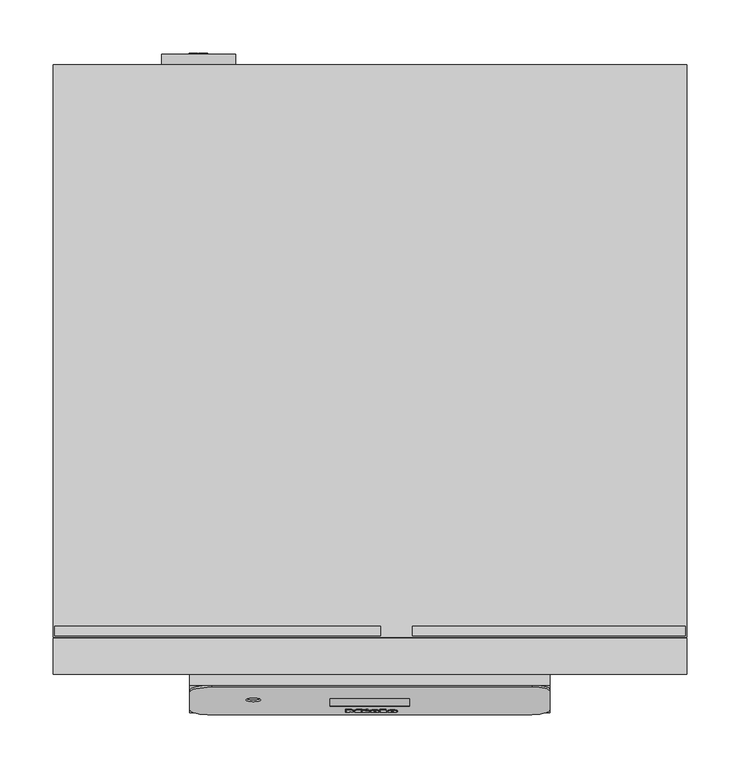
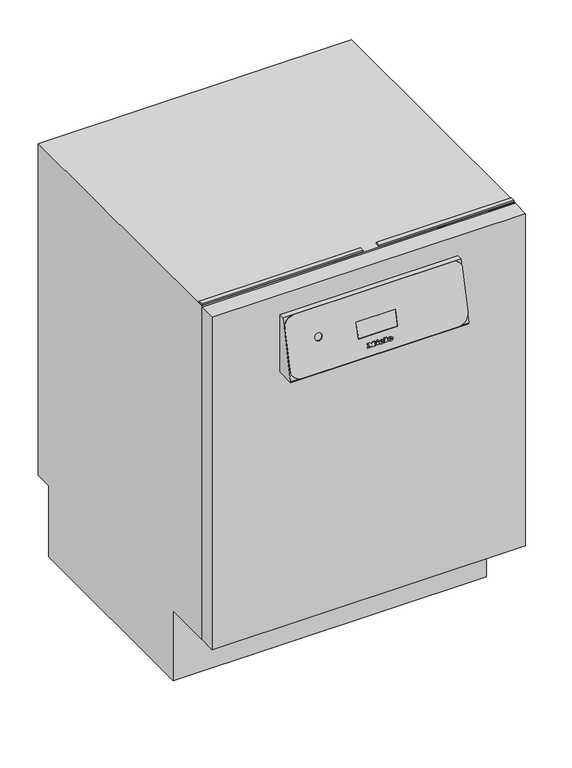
"""IFC4 building model written with IfcOpenShell, lengths in millimetres: proxy geometry, 12065130_DAC_PFD401U_LW : 61040120_DAC_12065130_PFD401U_LW."""

from ifc_helpers import new_model, si_unit, point, frame, frame_2d, origin, origin_with_axes, place, context, project, spatial, polyline, circle_curve, ellipse_curve, trimmed, segment, composite_curve, outline, extrude, source, transform, mapped, element, save
from ifc_brep_helpers import plane_surface, cylinder_surface, revolved_surface, extruded_surface, advanced_brep


def specialty_equipment_68a3030f(model_context):
    return source(origin(), model_context, "Body", "SolidModel", [
        advanced_brep(
        [(20.656, -35.3033059, 679.7712566), (20.656, -35.1215455, 680.5585476), (26.008, -35.1215455, 680.5585476), (16.696, -35.1215455, 680.5585476), (18.896, -35.7298131, 677.9238509), (25.872, -35.3033059, 679.7712566), (23.456, -35.3033059, 679.7712566), (21.552, -35.5048621, 678.898221), (20.656, -34.8911956, 681.5563025), (20.656, -34.6950383, 682.4059532), (22.024, -34.6950383, 682.4059532), (22.024, -34.8911956, 681.5563025), (20.656, -34.3289359, 679.5463055), (21.552, -34.530492, 678.6732699), (23.456, -34.3289359, 679.5463055), (25.872, -34.3289359, 679.5463055), (18.896, -34.7554431, 677.6988999), (16.696, -34.1471754, 680.3335965), (26.008, -34.1471754, 680.3335965), (20.656, -34.1471754, 680.3335965), (20.656, -33.9168255, 681.3313515), (22.024, -33.9168255, 681.3313515), (22.024, -33.7206682, 682.1810022), (20.656, -33.7206682, 682.1810022)],
        [
            (0, 1),
            (1, 2),
            (2, 3, ellipse_curve(frame((21.352, -35.1215455, 680.5585476), z_axis=(0.0, -0.9743700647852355, 0.22495105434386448), x_axis=(-1.0, 0.0, 0.0)), 4.656, 3.848)),
            (3, 4, circle_curve(frame((19.7920436, -35.0603588, 680.8235762), z_axis=(0.0, -0.9743700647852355, 0.22495105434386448), x_axis=(0.0, -0.22495105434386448, -0.9743700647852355)), 3.1079688)),
            (4, 5, circle_curve(frame((21.2587936, -34.5852622, 682.8814458), z_axis=(0.0, -0.9743700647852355, 0.22495105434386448), x_axis=(0.0, -0.22495105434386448, -0.9743700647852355)), 5.6098607)),
            (5, 6),
            (6, 7, circle_curve(frame((21.9430588, -35.1359424, 680.4961879), z_axis=(0.0, 0.9743700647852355, -0.22495105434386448), x_axis=(0.0, -0.22495105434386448, -0.9743700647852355)), 1.6859795)),
            (7, 0, circle_curve(frame((21.552, -35.3033059, 679.7712566), z_axis=(0.0, 0.9743700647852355, -0.22495105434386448), x_axis=(0.0, -0.22495105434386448, -0.9743700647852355)), 0.896)),
            (8, 9),
            (9, 10, circle_curve(frame((21.34, -34.6950383, 682.4059532), z_axis=(0.0, 0.9743700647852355, -0.22495105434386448), x_axis=(0.0, -0.22495105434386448, -0.9743700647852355)), 0.684)),
            (10, 11),
            (11, 8),
            (12, 13, circle_curve(frame((21.552, -34.3289359, 679.5463055), z_axis=(0.0, -0.9743700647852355, 0.22495105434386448), x_axis=(0.0, -0.22495105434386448, -0.9743700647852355)), 0.896)),
            (13, 14, circle_curve(frame((21.9430588, -34.1615723, 680.2712369), z_axis=(0.0, -0.9743700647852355, 0.22495105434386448), x_axis=(0.0, -0.22495105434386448, -0.9743700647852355)), 1.6859795)),
            (14, 15),
            (15, 16, circle_curve(frame((21.2587936, -33.6108921, 682.6564948), z_axis=(0.0, 0.9743700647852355, -0.22495105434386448), x_axis=(0.0, -0.22495105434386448, -0.9743700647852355)), 5.6098607)),
            (16, 17, circle_curve(frame((19.7920436, -34.0859887, 680.5986252), z_axis=(0.0, 0.9743700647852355, -0.22495105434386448), x_axis=(0.0, -0.22495105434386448, -0.9743700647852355)), 3.1079688)),
            (17, 18, ellipse_curve(frame((21.352, -34.1471754, 680.3335965), z_axis=(0.0, 0.9743700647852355, -0.22495105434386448), x_axis=(-1.0, 0.0, 0.0)), 4.656, 3.848)),
            (18, 19),
            (19, 12),
            (20, 21),
            (21, 22),
            (22, 23, circle_curve(frame((21.34, -33.7206682, 682.1810022), z_axis=(0.0, -0.9743700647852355, 0.22495105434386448), x_axis=(0.0, -0.22495105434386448, -0.9743700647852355)), 0.684)),
            (23, 20),
            (0, 12),
            (19, 1),
            (18, 2),
            (5, 15),
            (14, 6),
            (17, 3),
            (13, 7),
            (16, 4),
            (8, 20),
            (23, 9),
            (22, 10),
            (21, 11),
        ],
        [
            plane_surface(frame((20.656, -35.1215455, 680.5585476), z_axis=(0.0, -0.9743700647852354, 0.22495105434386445), x_axis=(0.0, 0.22495105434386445, 0.9743700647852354))),
            plane_surface(frame((20.656, -34.1471754, 680.3335965), z_axis=(0.0, 0.9743700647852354, -0.22495105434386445), x_axis=(0.0, -0.22495105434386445, -0.9743700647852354))),
            plane_surface(frame((20.656, -35.3033059, 679.7712566), z_axis=(1.0, 0.0, 0.0), x_axis=(0.0, 0.9743700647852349, -0.22495105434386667))),
            plane_surface(frame((20.656, -35.1215455, 680.5585476), z_axis=(0.0, -0.22495105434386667, -0.9743700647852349), x_axis=(0.0, 0.9743700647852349, -0.22495105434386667))),
            plane_surface(frame((25.872, -35.3033059, 679.7712566), z_axis=(0.0, 0.22495105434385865, 0.9743700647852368), x_axis=(0.0, 0.9743700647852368, -0.22495105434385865))),
            extruded_surface(trimmed(ellipse_curve(frame((21.352, -33.1728054, 680.1086455), z_axis=(0.0, -0.9743700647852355, 0.22495105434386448), x_axis=(-1.0, 0.0, 0.0)), 4.656, 3.848), [point((26.008, -33.1728054, 680.1086455))], [point((16.696, -33.1728054, 680.1086455))], True, "CARTESIAN"), (0.0, -0.9743700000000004, 0.22495100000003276), 0.9999999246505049),
            revolved_surface(polyline([(21.9430588, -34.54083511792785, 678.6284689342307), (21.9430588, -35.51520525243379, 678.8534200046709)]), (21.9430588, -34.1615723, 680.2712369), (0.0, 0.9743700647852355, -0.22495105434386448)),
            revolved_surface(polyline([(21.552, -34.53049199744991, 678.6732699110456), (21.552, -35.504862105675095, 678.8982209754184)]), (21.552, -34.3289359, 679.5463055), (0.0, 0.9743700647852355, -0.22495105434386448)),
            cylinder_surface(frame((19.7920436, -34.0859887, 680.5986252), z_axis=(0.0, -0.9743700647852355, 0.22495105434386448), x_axis=(0.0, -0.22495105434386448, -0.9743700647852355)), 3.1079688),
            cylinder_surface(frame((21.2587936, -33.6108921, 682.6564948), z_axis=(0.0, -0.9743700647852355, 0.22495105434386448), x_axis=(0.0, -0.22495105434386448, -0.9743700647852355)), 5.6098607),
            plane_surface(frame((20.656, -34.8911956, 681.5563025), z_axis=(1.0, 0.0, 0.0), x_axis=(0.0, 0.9743700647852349, -0.22495105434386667))),
            revolved_surface(polyline([(21.34, -33.8745347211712, 681.5145330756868), (21.34, -34.84890480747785, 681.7394841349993)]), (21.34, -33.7206682, 682.1810022), (0.0, 0.9743700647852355, -0.22495105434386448)),
            plane_surface(frame((22.024, -34.6950383, 682.4059532), z_axis=(-1.0, 0.0, 0.0), x_axis=(0.0, 0.9743700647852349, -0.22495105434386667))),
            plane_surface(frame((22.024, -34.8911956, 681.5563025), z_axis=(0.0, 0.22495105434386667, 0.9743700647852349), x_axis=(0.0, 0.9743700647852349, -0.22495105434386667))),
        ],
        [
            (0, [[1, 2, 3, 4, 5, 6, 7, 8], [9, 10, 11, 12]]),
            (1, [[13, 14, 15, 16, 17, 18, 19, 20], [21, 22, 23, 24]]),
            (2, [[-1, 25, -20, 26]]),
            (3, [[-2, -26, -19, 27]]),
            (4, [[-6, 28, -15, 29]]),
            (5, [[-3, -27, -18, 30]]),
            (6, [[-7, -29, -14, 31]]),
            (7, [[-8, -31, -13, -25]]),
            (8, [[-4, -30, -17, 32]]),
            (9, [[-5, -32, -16, -28]]),
            (10, [[-9, 33, -24, 34]]),
            (11, [[-10, -34, -23, 35]]),
            (12, [[-11, -35, -22, 36]]),
            (13, [[-12, -36, -21, -33]]),
        ],
    ),
        advanced_brep(
        [(3.96, -35.3033059, 679.7712566), (3.96, -35.1215455, 680.5585476), (9.312, -35.1215455, 680.5585476), (0.0, -35.1215455, 680.5585476), (2.2, -35.7298131, 677.9238509), (9.176, -35.3033059, 679.7712566), (6.76, -35.3033059, 679.7712566), (4.856, -35.5048621, 678.898221), (3.96, -34.8911956, 681.5563025), (3.96, -34.6950383, 682.4059532), (5.328, -34.6950383, 682.4059532), (5.328, -34.8911956, 681.5563025), (3.96, -34.3289359, 679.5463055), (4.856, -34.530492, 678.6732699), (6.76, -34.3289359, 679.5463055), (9.176, -34.3289359, 679.5463055), (2.2, -34.7554431, 677.6988999), (0.0, -34.1471754, 680.3335965), (9.312, -34.1471754, 680.3335965), (3.96, -34.1471754, 680.3335965), (3.96, -33.9168255, 681.3313515), (5.328, -33.9168255, 681.3313515), (5.328, -33.7206682, 682.1810022), (3.96, -33.7206682, 682.1810022)],
        [
            (0, 1),
            (1, 2),
            (2, 3, ellipse_curve(frame((4.656, -35.1215455, 680.5585476), z_axis=(0.0, -0.9743700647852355, 0.22495105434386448), x_axis=(-1.0, 0.0, 0.0)), 4.656, 3.848)),
            (3, 4, circle_curve(frame((3.0960436, -35.0603588, 680.8235762), z_axis=(0.0, -0.9743700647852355, 0.22495105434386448), x_axis=(0.0, -0.22495105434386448, -0.9743700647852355)), 3.1079688)),
            (4, 5, circle_curve(frame((4.5627936, -34.5852622, 682.8814458), z_axis=(0.0, -0.9743700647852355, 0.22495105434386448), x_axis=(0.0, -0.22495105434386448, -0.9743700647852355)), 5.6098607)),
            (5, 6),
            (6, 7, circle_curve(frame((5.2470588, -35.1359424, 680.4961879), z_axis=(0.0, 0.9743700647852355, -0.22495105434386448), x_axis=(0.0, -0.22495105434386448, -0.9743700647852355)), 1.6859795)),
            (7, 0, circle_curve(frame((4.856, -35.3033059, 679.7712566), z_axis=(0.0, 0.9743700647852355, -0.22495105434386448), x_axis=(0.0, -0.22495105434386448, -0.9743700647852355)), 0.896)),
            (8, 9),
            (9, 10, circle_curve(frame((4.644, -34.6950383, 682.4059532), z_axis=(0.0, 0.9743700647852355, -0.22495105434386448), x_axis=(0.0, -0.22495105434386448, -0.9743700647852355)), 0.684)),
            (10, 11),
            (11, 8),
            (12, 13, circle_curve(frame((4.856, -34.3289359, 679.5463055), z_axis=(0.0, -0.9743700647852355, 0.22495105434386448), x_axis=(0.0, -0.22495105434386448, -0.9743700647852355)), 0.896)),
            (13, 14, circle_curve(frame((5.2470588, -34.1615723, 680.2712369), z_axis=(0.0, -0.9743700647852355, 0.22495105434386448), x_axis=(0.0, -0.22495105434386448, -0.9743700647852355)), 1.6859795)),
            (14, 15),
            (15, 16, circle_curve(frame((4.5627936, -33.6108921, 682.6564948), z_axis=(0.0, 0.9743700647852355, -0.22495105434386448), x_axis=(0.0, -0.22495105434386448, -0.9743700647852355)), 5.6098607)),
            (16, 17, circle_curve(frame((3.0960436, -34.0859887, 680.5986252), z_axis=(0.0, 0.9743700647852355, -0.22495105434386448), x_axis=(0.0, -0.22495105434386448, -0.9743700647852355)), 3.1079688)),
            (17, 18, ellipse_curve(frame((4.656, -34.1471754, 680.3335965), z_axis=(0.0, 0.9743700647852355, -0.22495105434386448), x_axis=(-1.0, 0.0, 0.0)), 4.656, 3.848)),
            (18, 19),
            (19, 12),
            (20, 21),
            (21, 22),
            (22, 23, circle_curve(frame((4.644, -33.7206682, 682.1810022), z_axis=(0.0, -0.9743700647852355, 0.22495105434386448), x_axis=(0.0, -0.22495105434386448, -0.9743700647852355)), 0.684)),
            (23, 20),
            (0, 12),
            (19, 1),
            (18, 2),
            (5, 15),
            (14, 6),
            (17, 3),
            (13, 7),
            (16, 4),
            (8, 20),
            (23, 9),
            (22, 10),
            (21, 11),
        ],
        [
            plane_surface(frame((3.96, -35.1215455, 680.5585476), z_axis=(0.0, -0.9743700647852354, 0.22495105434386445), x_axis=(0.0, 0.22495105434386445, 0.9743700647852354))),
            plane_surface(frame((3.96, -34.1471754, 680.3335965), z_axis=(0.0, 0.9743700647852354, -0.22495105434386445), x_axis=(0.0, -0.22495105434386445, -0.9743700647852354))),
            plane_surface(frame((3.96, -35.3033059, 679.7712566), z_axis=(1.0000000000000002, 0.0, 0.0), x_axis=(0.0, 0.9743700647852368, -0.22495105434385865))),
            plane_surface(frame((3.96, -35.1215455, 680.5585476), z_axis=(0.0, -0.22495105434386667, -0.9743700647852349), x_axis=(0.0, 0.9743700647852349, -0.22495105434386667))),
            plane_surface(frame((9.176, -35.3033059, 679.7712566), z_axis=(0.0, 0.22495105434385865, 0.9743700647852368), x_axis=(0.0, 0.9743700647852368, -0.22495105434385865))),
            extruded_surface(trimmed(ellipse_curve(frame((4.656, -33.1728054, 680.1086455), z_axis=(0.0, -0.9743700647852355, 0.22495105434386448), x_axis=(-1.0, 0.0, 0.0)), 4.656, 3.848), [point((9.312, -33.1728054, 680.1086455))], [point((0.0, -33.1728054, 680.1086455))], True, "CARTESIAN"), (0.0, -0.9743700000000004, 0.22495100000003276), 0.9999999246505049),
            revolved_surface(polyline([(5.2470588, -34.54083511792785, 678.6284689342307), (5.2470588, -35.51520525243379, 678.8534200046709)]), (5.2470588, -34.1615723, 680.2712369), (0.0, 0.9743700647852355, -0.22495105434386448)),
            revolved_surface(polyline([(4.856, -34.53049199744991, 678.6732699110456), (4.856, -35.504862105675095, 678.8982209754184)]), (4.856, -34.3289359, 679.5463055), (0.0, 0.9743700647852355, -0.22495105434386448)),
            cylinder_surface(frame((3.0960436, -34.0859887, 680.5986252), z_axis=(0.0, -0.9743700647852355, 0.22495105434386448), x_axis=(0.0, -0.22495105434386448, -0.9743700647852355)), 3.1079688),
            cylinder_surface(frame((4.5627936, -33.6108921, 682.6564948), z_axis=(0.0, -0.9743700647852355, 0.22495105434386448), x_axis=(0.0, -0.22495105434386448, -0.9743700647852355)), 5.6098607),
            plane_surface(frame((3.96, -34.8911956, 681.5563025), z_axis=(1.0, 0.0, 0.0), x_axis=(0.0, 0.9743700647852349, -0.22495105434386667))),
            revolved_surface(polyline([(4.644, -33.8745347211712, 681.5145330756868), (4.644, -34.84890480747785, 681.7394841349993)]), (4.644, -33.7206682, 682.1810022), (0.0, 0.9743700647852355, -0.22495105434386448)),
            plane_surface(frame((5.328, -34.6950383, 682.4059532), z_axis=(-1.0, 0.0, 0.0), x_axis=(0.0, 0.9743700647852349, -0.22495105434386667))),
            plane_surface(frame((5.328, -34.8911956, 681.5563025), z_axis=(0.0, 0.22495105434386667, 0.9743700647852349), x_axis=(0.0, 0.9743700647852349, -0.22495105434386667))),
        ],
        [
            (0, [[1, 2, 3, 4, 5, 6, 7, 8], [9, 10, 11, 12]]),
            (1, [[13, 14, 15, 16, 17, 18, 19, 20], [21, 22, 23, 24]]),
            (2, [[-1, 25, -20, 26]]),
            (3, [[-2, -26, -19, 27]]),
            (4, [[-6, 28, -15, 29]]),
            (5, [[-3, -27, -18, 30]]),
            (6, [[-7, -29, -14, 31]]),
            (7, [[-8, -31, -13, -25]]),
            (8, [[-4, -30, -17, 32]]),
            (9, [[-5, -32, -16, -28]]),
            (10, [[-9, 33, -24, 34]]),
            (11, [[-10, -34, -23, 35]]),
            (12, [[-11, -35, -22, 36]]),
            (13, [[-12, -36, -21, -33]]),
        ],
    ),
        extrude(outline(polyline([(0.0, 0.0), (-0.0109086, -2.9993294), (-1.4390415, -2.9920868), (-1.4315307, 0.0), (0.0, 0.0)])), frame((-4.784, -33.0620115, 685.0339577), z_axis=(0.0, -0.9743700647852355, 0.22495105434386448), x_axis=(-0.4247202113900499, 0.20365373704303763, 0.8821212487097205)), (0.0, 0.0, 1.0), 1.0),
        extrude(outline(polyline([(-0.4933907, 2.4141097), (-2.7800844, -2.4601583), (-7.0459742, -0.4588766), (-7.4401146, -1.2990179), (-8.6568709, -0.728194), (-5.9760369, 4.9862153), (-4.7592806, 4.4153913), (-5.1636142, 3.5535223), (-2.1941493, 2.1604399), (-1.7898156, 3.022309), (-0.4933907, 2.4141097)])), frame((-4.784, -33.0620115, 685.0339577), z_axis=(0.0, -0.9743700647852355, 0.22495105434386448), x_axis=(-0.4247202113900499, 0.20365373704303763, 0.8821212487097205)), (0.0, 0.0, 1.0), 1.0),
        extrude(outline(polyline([(0.0, 0.0), (0.0, -1.304), (-5.504, -1.304), (-5.504, 5.352), (-6.488, 5.352), (-6.488, 6.696), (0.0, 6.696), (0.0, 5.352), (-0.96, 5.352), (-0.96, 0.0), (0.0, 0.0)])), frame((9.76, -33.2491708, 684.2232818), z_axis=(0.0, -0.9743700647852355, 0.22495105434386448), x_axis=(-1.0, 0.0, 0.0)), (0.0, 0.0, 1.0), 1.0),
        extrude(outline(polyline([(0.0, 0.0), (0.0, -1.304), (-5.576, -1.304), (-7.92, 1.696), (-10.256, -1.304), (-15.128, -1.304), (-15.128, 0.0), (-14.112, 0.0), (-14.112, 5.352), (-15.128, 5.352), (-15.128, 6.696), (-8.744, 6.696), (-8.744, 5.352), (-9.728, 5.352), (-9.728, 1.8807777), (-6.136, 6.696), (-2.56, 1.9488753), (-2.56, 5.352), (-3.52, 5.352), (-3.52, 6.696), (0.0, 6.696), (0.0, 5.352), (-0.968, 5.352), (-0.968, 0.0), (0.0, 0.0)])), frame((-22.704, -33.2491708, 684.2232818), z_axis=(0.0, -0.9743700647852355, 0.22495105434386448), x_axis=(-1.0, 0.0, 0.0)), (0.0, 0.0, 1.0), 1.0),
        extrude(outline(polyline([(-0.1038681, 775.5857792), (-0.1038681, 660.0), (-36.1981904, 660.0), (-36.1981904, 662.5588517), (-10.1038681, 775.5857792), (-0.1038681, 775.5857792)])), frame((-169.8831565, 0.0, 0.0), z_axis=(1.0, 0.0, 0.0), x_axis=(0.0, 1.0, 0.0)), (0.0, 0.0, 1.0), 339.766313),
        extrude(outline(polyline([(299.0, 34.0), (299.0, 0.0), (-299.0, 0.0), (-299.0, 34.0), (299.0, 34.0)])), frame((0.0, 0.0, 145.0), z_axis=(0.0, 0.0, 1.0), x_axis=(1.0, 0.0, 0.0)), (0.0, 0.0, 1.0), 670.0),
        advanced_brep(
        [(153.3281651, -12.0526082, 776.0356813), (-148.8831565, -12.0526082, 776.0356813), (-169.8831565, -16.7765804, 755.57391), (-169.8831565, -33.4229584, 683.4705252), (-148.8831565, -38.1469305, 663.0087538), (148.8831565, -38.1469305, 663.0087538), (169.8831565, -33.4229584, 683.4705252), (169.8831565, -15.776671, 759.9049933), (-102.8831565, -24.0088923, 724.2473253), (-116.8831565, -24.0088923, 724.2473253), (37.5, -23.1425191, 728.0), (37.5, -30.0685648, 698.0), (-37.5, -30.0685648, 698.0), (-37.5, -23.1425191, 728.0), (148.8831565, -36.1981904, 662.5588517), (169.8831565, -31.4742182, 683.0206231), (169.8831565, -13.8279308, 759.4550912), (153.3281651, -10.1038681, 775.5857792), (-148.8831565, -36.1981904, 662.5588517), (-169.8831565, -31.4742182, 683.0206231), (-169.8831565, -14.8278402, 755.1240079), (-148.8831565, -10.1038681, 775.5857792), (37.5, -28.0159566, 698.0), (37.5, -21.0899109, 728.0), (-37.5, -21.0899109, 728.0), (-37.5, -28.0159566, 698.0), (-116.8831565, -22.4281396, 723.8823798), (-102.8831565, -22.4281396, 723.8823798)],
        [
            (0, 1),
            (1, 2, circle_curve(frame((-148.8831565, -16.7765804, 755.57391), z_axis=(0.0, -0.9743700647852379, 0.22495105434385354), x_axis=(1.0, 0.0, 0.0)), 21.0)),
            (2, 3),
            (3, 4, circle_curve(frame((-148.8831565, -33.4229584, 683.4705252), z_axis=(0.0, -0.9743700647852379, 0.22495105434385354), x_axis=(1.0, 0.0, 0.0)), 21.0)),
            (4, 5),
            (5, 6, circle_curve(frame((148.8831565, -33.4229584, 683.4705252), z_axis=(0.0, -0.9743700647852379, 0.22495105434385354), x_axis=(1.0, 0.0, 0.0)), 21.0)),
            (6, 7),
            (7, 0, circle_curve(frame((153.3281651, -15.776671, 759.9049933), z_axis=(0.0, -0.9743700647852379, 0.22495105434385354), x_axis=(1.0, 0.0, 0.0)), 16.5549913)),
            (8, 9, circle_curve(frame((-109.8831565, -24.0088923, 724.2473253), z_axis=(0.0, 0.9743700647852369, -0.22495105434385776), x_axis=(1.0, 0.0, 0.0)), 7.0)),
            (9, 8, circle_curve(frame((-109.8831565, -24.0088923, 724.2473253), z_axis=(0.0, 0.9743700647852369, -0.22495105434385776), x_axis=(1.0, 0.0, 0.0)), 7.0)),
            (10, 11),
            (11, 12),
            (12, 13),
            (13, 10),
            (5, 14),
            (14, 15, circle_curve(frame((148.8831565, -31.4742182, 683.0206231), z_axis=(0.0, -0.9743700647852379, 0.22495105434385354), x_axis=(1.0, 0.0, 0.0)), 21.0)),
            (15, 6),
            (15, 16),
            (16, 7),
            (16, 17, circle_curve(frame((153.3281651, -13.8279308, 759.4550912), z_axis=(0.0, -0.9743700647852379, 0.22495105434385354), x_axis=(1.0, 0.0, 0.0)), 16.5549913)),
            (17, 0),
            (14, 18),
            (18, 19, circle_curve(frame((-148.8831565, -31.4742182, 683.0206231), z_axis=(0.0, 0.9743700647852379, -0.22495105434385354), x_axis=(1.0, 0.0, 0.0)), 21.0)),
            (19, 20),
            (20, 21, circle_curve(frame((-148.8831565, -14.8278402, 755.1240079), z_axis=(0.0, 0.9743700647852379, -0.22495105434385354), x_axis=(1.0, 0.0, 0.0)), 21.0)),
            (21, 17),
            (22, 23),
            (23, 24),
            (24, 25),
            (25, 22),
            (21, 1),
            (20, 2),
            (19, 3),
            (18, 4),
            (26, 27, circle_curve(frame((-109.8831565, -22.4281396, 723.8823798), z_axis=(0.0, -0.9743700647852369, 0.22495105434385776), x_axis=(1.0, 0.0, 0.0)), 7.0)),
            (27, 26, circle_curve(frame((-109.8831565, -22.4281396, 723.8823798), z_axis=(0.0, -0.9743700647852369, 0.22495105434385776), x_axis=(1.0, 0.0, 0.0)), 7.0)),
            (26, 9),
            (8, 27),
            (11, 22),
            (25, 12),
            (23, 10),
            (13, 24),
        ],
        [
            plane_surface(frame((-166.8819453, -12.0526082, 776.0356813), z_axis=(0.0, -0.9743700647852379, 0.22495105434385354), x_axis=(-1.0, 0.0, 0.0))),
            cylinder_surface(frame((148.8831565, -31.4742182, 683.0206231), z_axis=(0.0, -0.9743700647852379, 0.22495105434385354), x_axis=(1.0, 0.0, 0.0)), 21.0),
            plane_surface(frame((169.8831565, -33.4229584, 683.4705252), z_axis=(1.0000000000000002, 0.0, 0.0), x_axis=(0.0, 0.9743700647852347, -0.22495105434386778))),
            cylinder_surface(frame((153.3281651, -13.8279308, 759.4550912), z_axis=(0.0, -0.9743700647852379, 0.22495105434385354), x_axis=(1.0, 0.0, 0.0)), 16.5549913),
            plane_surface(frame((-166.8819453, -10.1038681, 775.5857792), z_axis=(0.0, 0.9743700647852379, -0.22495105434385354), x_axis=(1.0, 0.0, 0.0))),
            plane_surface(frame((153.3281651, -12.0526082, 776.0356813), z_axis=(0.0, 0.22495105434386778, 0.9743700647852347), x_axis=(0.0, 0.9743700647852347, -0.22495105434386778))),
            cylinder_surface(frame((-148.8831565, -14.8278402, 755.1240079), z_axis=(0.0, -0.9743700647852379, 0.22495105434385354), x_axis=(1.0, 0.0, 0.0)), 21.0),
            plane_surface(frame((-169.8831565, -16.7765804, 755.57391), z_axis=(-1.0, 0.0, 0.0), x_axis=(0.0, 0.9743700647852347, -0.22495105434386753))),
            cylinder_surface(frame((-148.8831565, -31.4742182, 683.0206231), z_axis=(0.0, -0.9743700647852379, 0.22495105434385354), x_axis=(1.0, 0.0, 0.0)), 21.0),
            plane_surface(frame((-148.8831565, -38.1469305, 663.0087538), z_axis=(0.0, -0.22495105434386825, -0.9743700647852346), x_axis=(0.0, 0.9743700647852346, -0.22495105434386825))),
            plane_surface(frame((-102.8831565, -22.4281396, 723.8823798), z_axis=(0.0, -0.9743700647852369, 0.2249510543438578), x_axis=(0.0, -0.2249510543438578, -0.9743700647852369))),
            revolved_surface(polyline([(-102.8831565, -24.008892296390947, 724.2473253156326), (-102.8831565, -22.4281396, 723.8823798)]), (-109.8831565, -22.4281396, 723.8823798), (0.0, -0.9743700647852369, 0.22495105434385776)),
            plane_surface(frame((37.5, -30.0685648, 698.0), z_axis=(0.0, 0.0, 1.0), x_axis=(-1.0, 0.0, 0.0))),
            plane_surface(frame((37.5, -21.0899109, 728.0), z_axis=(0.0, 0.0, -1.0), x_axis=(-1.0, 0.0, 0.0))),
            plane_surface(frame((37.5, -23.1425191, 728.0), z_axis=(-1.0000000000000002, 0.0, 0.0), x_axis=(0.0, -0.22495105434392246, -0.974370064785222))),
            plane_surface(frame((-37.5, -23.1425191, 728.0), z_axis=(1.0000000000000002, 0.0, 0.0), x_axis=(0.0, 0.22495105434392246, 0.974370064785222))),
        ],
        [
            (0, [[1, 2, 3, 4, 5, 6, 7, 8], [9, 10], [11, 12, 13, 14]]),
            (1, [[-6, 15, 16, 17]]),
            (2, [[-7, -17, 18, 19]]),
            (3, [[-8, -19, 20, 21]]),
            (4, [[-20, -18, -16, 22, 23, 24, 25, 26], [27, 28, 29, 30]]),
            (5, [[-1, -21, -26, 31]]),
            (6, [[-2, -31, -25, 32]]),
            (7, [[-3, -32, -24, 33]]),
            (8, [[-4, -33, -23, 34]]),
            (9, [[-5, -34, -22, -15]]),
            (10, [[35, 36]]),
            (11, [[-35, 37, -9, 38]]),
            (11, [[-36, -38, -10, -37]]),
            (12, [[39, -30, 40, -12]]),
            (13, [[41, -14, 42, -28]]),
            (14, [[-41, -27, -39, -11]]),
            (15, [[-40, -29, -42, -13]]),
        ],
    ),
        extrude(outline(polyline([(-23.1425191, 728.0), (-21.0899109, 728.0), (-28.0159566, 698.0), (-30.0685648, 698.0), (-23.1425191, 728.0)])), frame((-37.5, 0.0, 0.0), z_axis=(1.0, 0.0, 0.0), x_axis=(0.0, 1.0, 0.0)), (0.0, 0.0, 1.0), 75.0),
        extrude(outline(polyline([(297.9027562, 45.259625), (297.9027562, 36.259625), (40.425123, 36.259625), (40.425123, 45.259625), (297.9027562, 45.259625)])), frame((0.0, 0.0, 817.0), z_axis=(0.0, 0.0, 1.0), x_axis=(1.0, 0.0, 0.0)), (0.0, 0.0, 1.0), 3.0),
        extrude(outline(polyline([(10.1158911, 45.259625), (10.1158911, 36.259625), (-297.5390632, 36.259625), (-297.5390632, 45.259625), (10.1158911, 45.259625)])), frame((0.0, 0.0, 817.0), z_axis=(0.0, 0.0, 1.0), x_axis=(1.0, 0.0, 0.0)), (0.0, 0.0, 1.0), 3.0),
        extrude(outline(polyline([(35.0, 817.0), (575.0, 817.0), (575.0, 148.0), (541.0, 148.0), (541.0, 4.2000122), (129.0, 4.2000122), (129.0, 145.0), (35.0, 145.0), (35.0, 817.0)])), frame((-299.0, 0.0, 0.0), z_axis=(1.0, 0.0, 0.0), x_axis=(0.0, 1.0, 0.0)), (0.0, 0.0, 1.0), 598.0),
        extrude(outline(polyline([(-172.0947306, 541.0), (-252.9150967, 541.0), (-252.9150967, 546.8796322), (-172.0947306, 546.8796322), (-172.0947306, 541.0)])), frame((0.0, 0.0, 83.2113443), z_axis=(0.0, 0.0, 1.0), x_axis=(1.0, 0.0, 0.0)), (0.0, 0.0, 1.0), 9.5402229),
        extrude(outline(polyline([(-172.0947306, 541.0), (-252.9150967, 541.0), (-252.9150967, 546.8796322), (-172.0947306, 546.8796322), (-172.0947306, 541.0)])), frame((0.0, 0.0, 67.2113431), z_axis=(0.0, 0.0, 1.0), x_axis=(1.0, 0.0, 0.0)), (0.0, 0.0, 1.0), 9.5826234),
        extrude(outline(polyline([(-172.0947306, 541.0), (-252.9150967, 541.0), (-252.9150967, 546.8796322), (-172.0947306, 546.8796322), (-172.0947306, 541.0)])), frame((0.0, 0.0, 49.1113767), z_axis=(0.0, 0.0, 1.0), x_axis=(1.0, 0.0, 0.0)), (0.0, 0.0, 1.0), 11.5700235),
        extrude(outline(polyline([(70.6242327, 186.565003), (80.6698637, 186.565003), (80.6698637, 179.3447057), (79.4141598, 179.3447057), (79.4141598, 185.3092991), (76.4318631, 185.3092991), (76.4318631, 179.6586317), (75.1761592, 179.6586317), (75.1761592, 185.3092991), (71.8799366, 185.3092991), (71.8799366, 179.1877427), (70.6242327, 179.1877427), (70.6242327, 186.565003)])), frame((0.0, 571.0, 0.0), z_axis=(0.0, 1.0, 0.0), x_axis=(0.0, 0.0, 1.0)), (0.0, 0.0, 1.0), 1.0),
        extrude(outline(polyline([(70.6242327, 177.3041869), (80.6698637, 177.3041869), (80.6698637, 176.048483), (71.8799366, 176.048483), (71.8799366, 171.0256675), (70.6242327, 171.0256675), (70.6242327, 177.3041869)])), frame((0.0, 571.0, 0.0), z_axis=(0.0, 1.0, 0.0), x_axis=(0.0, 0.0, 1.0)), (0.0, 0.0, 1.0), 1.0),
        extrude(outline(polyline([(46.0, 96.7862239), (56.045631, 92.7763102), (56.045631, 91.7069998), (46.0, 87.6970861), (46.0, 89.0239138), (49.1392597, 90.1741582), (49.1392597, 94.3116044), (46.0, 95.4593962), (46.0, 96.7862239)]), holes=[polyline([(50.3949636, 93.8505256), (50.3949636, 90.6327844), (52.864678, 91.5377741), (54.7899271, 92.241655), (53.0805021, 92.8670544), (50.3949636, 93.8505256)])]), frame((0.0, 571.0, 0.0), z_axis=(0.0, 1.0, 0.0), x_axis=(0.0, 0.0, 1.0)), (0.0, 0.0, 1.0), 1.0),
        extrude(outline(polyline([(46.0, 84.5578264), (56.045631, 87.297321), (56.045631, 86.0023764), (49.4433755, 84.4131261), (47.4053092, 83.9226168), (49.207931, 83.3977718), (56.045631, 81.406304), (56.045631, 79.539916), (51.0890343, 78.0929135), (47.4053092, 77.0162455), (49.3845144, 76.5404514), (56.045631, 74.936486), (56.045631, 73.6415413), (46.0, 76.3834885), (46.0, 77.7250315), (53.7500474, 80.1334323), (54.8316204, 80.4694312), (53.5293182, 80.8471233), (46.0, 83.0421526), (46.0, 84.5578264)])), frame((0.0, 571.0, 0.0), z_axis=(0.0, 1.0, 0.0), x_axis=(0.0, 0.0, 1.0)), (0.0, 0.0, 1.0), 1.0),
        extrude(outline(composite_curve([segment(trimmed(circle_curve(frame_2d((51.0, 85.0998392)), 8.0), [point((51.0, 77.0998392))], [point((51.0, 93.0998392))], False, "CARTESIAN"), True, "CONTINUOUS"), segment(trimmed(circle_curve(frame_2d((51.0, 85.0998392)), 8.0), [point((51.0, 93.0998392))], [point((51.0, 77.0998392))], False, "CARTESIAN"), True, "CONTINUOUS")], self_intersect=False)), frame((0.0, 541.0, 0.0), z_axis=(0.0, 1.0, 0.0), x_axis=(0.0, 0.0, 1.0)), (0.0, 0.0, 1.0), 30.0),
        extrude(outline(polyline([(94.6239875, 133.557834), (104.6696185, 136.2973286), (104.6696185, 135.002384), (98.067363, 133.4131338), (96.0292967, 132.9226244), (97.8319185, 132.3977795), (104.6696185, 130.4063116), (104.6696185, 128.5399236), (99.7130218, 127.0929211), (96.0292967, 126.0162531), (98.0085019, 125.5404591), (104.6696185, 123.9364936), (104.6696185, 122.641549), (94.6239875, 125.3834961), (94.6239875, 126.7250391), (102.3740349, 129.1334399), (103.4556079, 129.4694388), (102.1533057, 129.847131), (94.6239875, 132.0421602), (94.6239875, 133.557834)])), frame((0.0, 571.0, 0.0), z_axis=(0.0, 1.0, 0.0), x_axis=(0.0, 0.0, 1.0)), (0.0, 0.0, 1.0), 1.0),
        extrude(outline(polyline([(94.6239875, 144.6163668), (104.6696185, 144.6163668), (104.6696185, 143.3606629), (99.7522625, 143.3606629), (104.6696185, 138.210315), (104.6696185, 136.4542916), (100.53953, 140.7781313), (94.6239875, 136.2973286), (94.6239875, 137.8326228), (99.6909489, 141.6684057), (98.0771732, 143.3606629), (94.6239875, 143.3606629), (94.6239875, 144.6163668)])), frame((0.0, 571.0, 0.0), z_axis=(0.0, 1.0, 0.0), x_axis=(0.0, 0.0, 1.0)), (0.0, 0.0, 1.0), 1.0),
        extrude(outline(polyline([(118.1398187, 18.2077062), (128.1854497, 18.2077062), (128.1854497, 14.7422578), (128.0407495, 12.9494462), (127.3221533, 11.4730132), (125.6053707, 10.283528), (123.2165903, 9.888668), (121.1895605, 10.1559956), (119.7266164, 10.8427087), (118.8154953, 11.7599611), (118.311497, 12.9604827), (118.1398187, 14.5754846), (118.1398187, 18.2077062)]), holes=[polyline([(119.3955226, 16.9520023), (119.3955226, 14.7299951), (119.5770111, 13.1137669), (120.0895933, 12.1817991), (121.3367133, 11.4178309), (123.2362106, 11.1443719), (125.6151809, 11.6802533), (126.728637, 12.9837819), (126.9297459, 14.7643307), (126.9297459, 16.9520023), (119.3955226, 16.9520023)])]), frame((0.0, 571.0, 0.0), z_axis=(0.0, 1.0, 0.0), x_axis=(0.0, 0.0, 1.0)), (0.0, 0.0, 1.0), 1.0),
        extrude(outline(polyline([(121.5930044, 8.6329642), (121.5930044, 7.3772603), (120.3360742, 6.9725901), (119.5414491, 5.9842138), (119.2385596, 4.4783502), (119.4678727, 3.1662377), (120.0981772, 2.3188828), (120.940627, 2.0405188), (121.7242156, 2.2489853), (122.2944327, 3.1024715), (122.7739056, 4.930845), (123.3931736, 6.8990137), (124.3275939, 7.9670977), (125.5759401, 8.3190382), (126.9971909, 7.8837112), (128.0002825, 6.6120657), (128.3424127, 4.7505828), (127.9843409, 2.7640201), (126.9321984, 1.4396449), (125.360116, 0.9417779), (125.360116, 2.1974818), (126.6501555, 2.9087203), (127.0867088, 4.7015319), (126.6550606, 6.4992486), (125.6127283, 7.0633343), (124.7420743, 6.6635692), (124.0406459, 4.6132402), (123.4103414, 2.391233), (122.3925346, 1.1759961), (120.9725101, 0.7848149), (119.4703253, 1.2348572), (118.3740369, 2.5298019), (117.9828557, 4.4292992), (118.4046938, 6.6721531), (119.6751129, 8.0909513), (121.5930044, 8.6329642)])), frame((0.0, 571.0, 0.0), z_axis=(0.0, 1.0, 0.0), x_axis=(0.0, 0.0, 1.0)), (0.0, 0.0, 1.0), 1.0),
        extrude(outline(composite_curve([segment(trimmed(circle_curve(frame_2d((126.8499756, 10.1811127)), 2.9851521), [point((126.8499756, 7.1959606))], [point((126.8499756, 13.1662647))], False, "CARTESIAN"), True, "CONTINUOUS"), segment(trimmed(circle_curve(frame_2d((126.8499756, 10.1811127)), 2.9851521), [point((126.8499756, 13.1662647))], [point((126.8499756, 7.1959606))], False, "CARTESIAN"), True, "CONTINUOUS")], self_intersect=False)), frame((0.0, 541.0, 0.0), z_axis=(0.0, 1.0, 0.0), x_axis=(0.0, 0.0, 1.0)), (0.0, 0.0, 1.0), 30.0),
        extrude(outline(composite_curve([segment(trimmed(circle_curve(frame_2d((117.0999756, 10.1811127)), 3.0), [point((117.0999756, 7.1811127))], [point((117.0999756, 13.1811127))], False, "CARTESIAN"), True, "CONTINUOUS"), segment(trimmed(circle_curve(frame_2d((117.0999756, 10.1811127)), 3.0), [point((117.0999756, 13.1811127))], [point((117.0999756, 7.1811127))], False, "CARTESIAN"), True, "CONTINUOUS")], self_intersect=False)), frame((0.0, 541.0, 0.0), z_axis=(0.0, 1.0, 0.0), x_axis=(0.0, 0.0, 1.0)), (0.0, 0.0, 1.0), 30.0),
        extrude(outline(composite_curve([segment(trimmed(circle_curve(frame_2d((107.3499443, 10.1811127)), 3.0), [point((107.3499443, 7.1811127))], [point((107.3499443, 13.1811127))], False, "CARTESIAN"), True, "CONTINUOUS"), segment(trimmed(circle_curve(frame_2d((107.3499443, 10.1811127)), 3.0), [point((107.3499443, 13.1811127))], [point((107.3499443, 7.1811127))], False, "CARTESIAN"), True, "CONTINUOUS")], self_intersect=False)), frame((0.0, 541.0, 0.0), z_axis=(0.0, 1.0, 0.0), x_axis=(0.0, 0.0, 1.0)), (0.0, 0.0, 1.0), 30.0),
        extrude(outline(composite_curve([segment(trimmed(circle_curve(frame_2d((136.5999756, 10.1811127)), 3.0), [point((136.5999756, 7.1811127))], [point((136.5999756, 13.1811127))], False, "CARTESIAN"), True, "CONTINUOUS"), segment(trimmed(circle_curve(frame_2d((136.5999756, 10.1811127)), 3.0), [point((136.5999756, 13.1811127))], [point((136.5999756, 7.1811127))], False, "CARTESIAN"), True, "CONTINUOUS")], self_intersect=False)), frame((0.0, 541.0, 0.0), z_axis=(0.0, 1.0, 0.0), x_axis=(0.0, 0.0, 1.0)), (0.0, 0.0, 1.0), 30.0),
        extrude(outline(polyline([(99.6239875, 19.6811122), (148.0, 19.6811122), (148.0, 1.1811127), (99.6239875, 1.1811127), (99.6239875, 19.6811122)]), holes=[polyline([(100.6239875, 18.6811122), (100.6239875, 2.1811127), (147.0, 2.1811127), (147.0, 18.6811122), (100.6239875, 18.6811122)])]), frame((0.0, 541.0, 0.0), z_axis=(0.0, 1.0, 0.0), x_axis=(0.0, 0.0, 1.0)), (0.0, 0.0, 1.0), 1.0),
        extrude(outline(polyline([(41.5900269, 145.1730949), (51.6356579, 147.9125895), (51.6356579, 146.6176449), (45.0334023, 145.0283946), (42.9953361, 144.5378853), (44.7979579, 144.0130403), (51.6356579, 142.0215725), (51.6356579, 140.1551845), (46.6790611, 138.708182), (42.9953361, 137.631514), (44.9745412, 137.1557199), (51.6356579, 135.5517544), (51.6356579, 134.2568098), (41.5900269, 136.998757), (41.5900269, 138.3403), (49.3400742, 140.7487008), (50.4216473, 141.0846996), (49.119345, 141.4623918), (41.5900269, 143.6574211), (41.5900269, 145.1730949)])), frame((0.0, 571.0, 0.0), z_axis=(0.0, 1.0, 0.0), x_axis=(0.0, 0.0, 1.0)), (0.0, 0.0, 1.0), 1.0),
        extrude(outline(polyline([(41.5900269, 131.2033893), (51.6356579, 133.9428838), (51.6356579, 132.6479392), (45.0334023, 131.058689), (42.9953361, 130.5681797), (44.7979579, 130.0433347), (51.6356579, 128.0518668), (51.6356579, 126.1854788), (46.6790611, 124.7384763), (42.9953361, 123.6618084), (44.9745412, 123.1860143), (51.6356579, 121.5820488), (51.6356579, 120.2871042), (41.5900269, 123.0290513), (41.5900269, 124.3705943), (49.3400742, 126.7789951), (50.4216473, 127.114994), (49.119345, 127.4926862), (41.5900269, 129.6877154), (41.5900269, 131.2033893)])), frame((0.0, 571.0, 0.0), z_axis=(0.0, 1.0, 0.0), x_axis=(0.0, 0.0, 1.0)), (0.0, 0.0, 1.0), 1.0),
        extrude(outline(composite_curve([segment(trimmed(circle_curve(frame_2d((46.5900269, 134.0998468)), 8.0), [point((46.5900269, 126.0998468))], [point((46.5900269, 142.0998468))], False, "CARTESIAN"), True, "CONTINUOUS"), segment(trimmed(circle_curve(frame_2d((46.5900269, 134.0998468)), 8.0), [point((46.5900269, 142.0998468))], [point((46.5900269, 126.0998468))], False, "CARTESIAN"), True, "CONTINUOUS")], self_intersect=False)), frame((0.0, 541.0, 0.0), z_axis=(0.0, 1.0, 0.0), x_axis=(0.0, 0.0, 1.0)), (0.0, 0.0, 1.0), 30.0),
        extrude(outline(polyline([(118.1398187, -7.1235653), (128.1854497, -7.1235653), (128.1854497, -10.5890137), (128.0407495, -12.3818253), (127.3221533, -13.8582584), (125.6053707, -15.0477435), (123.2165903, -15.4426035), (121.1895605, -15.1752759), (119.7266164, -14.4885629), (118.8154953, -13.5713104), (118.311497, -12.3707889), (118.1398187, -10.7557869), (118.1398187, -7.1235653)]), holes=[polyline([(119.3955226, -8.3792692), (119.3955226, -10.6012765), (119.5770111, -12.2175047), (120.0895933, -13.1494724), (121.3367133, -13.9134407), (123.2362106, -14.1868996), (125.6151809, -13.6510182), (126.728637, -12.3474897), (126.9297459, -10.5669408), (126.9297459, -8.3792692), (119.3955226, -8.3792692)])]), frame((0.0, 571.0, 0.0), z_axis=(0.0, 1.0, 0.0), x_axis=(0.0, 0.0, 1.0)), (0.0, 0.0, 1.0), 1.0),
        extrude(outline(polyline([(121.5930044, -16.6983074), (121.5930044, -17.9540113), (120.3360742, -18.3586815), (119.5414491, -19.3470578), (119.2385596, -20.8529214), (119.4678727, -22.1650338), (120.0981772, -23.0123887), (120.940627, -23.2907528), (121.7242156, -23.0822863), (122.2944327, -22.2288001), (122.7739056, -20.4004265), (123.3931736, -18.4322579), (124.3275939, -17.3641738), (125.5759401, -17.0122334), (126.9971909, -17.4475604), (128.0002825, -18.7192058), (128.3424127, -20.5806887), (127.9843409, -22.5672515), (126.9321984, -23.8916267), (125.360116, -24.3894936), (125.360116, -23.1337898), (126.6501555, -22.4225512), (127.0867088, -20.6297397), (126.6550606, -18.832023), (125.6127283, -18.2679372), (124.7420743, -18.6677023), (124.0406459, -20.7180313), (123.4103414, -22.9400386), (122.3925346, -24.1552754), (120.9725101, -24.5464566), (119.4703253, -24.0964143), (118.3740369, -22.8014697), (117.9828557, -20.9019723), (118.4046938, -18.6591184), (119.6751129, -17.2403202), (121.5930044, -16.6983074)])), frame((0.0, 571.0, 0.0), z_axis=(0.0, 1.0, 0.0), x_axis=(0.0, 0.0, 1.0)), (0.0, 0.0, 1.0), 1.0),
        extrude(outline(composite_curve([segment(trimmed(circle_curve(frame_2d((126.8499756, -15.1501589)), 2.9851521), [point((126.8499756, -18.135311))], [point((126.8499756, -12.1650068))], False, "CARTESIAN"), True, "CONTINUOUS"), segment(trimmed(circle_curve(frame_2d((126.8499756, -15.1501589)), 2.9851521), [point((126.8499756, -12.1650068))], [point((126.8499756, -18.135311))], False, "CARTESIAN"), True, "CONTINUOUS")], self_intersect=False)), frame((0.0, 541.0, 0.0), z_axis=(0.0, 1.0, 0.0), x_axis=(0.0, 0.0, 1.0)), (0.0, 0.0, 1.0), 30.0),
        extrude(outline(composite_curve([segment(trimmed(circle_curve(frame_2d((117.0999756, -15.1501589)), 3.0), [point((117.0999756, -18.1501589))], [point((117.0999756, -12.1501589))], False, "CARTESIAN"), True, "CONTINUOUS"), segment(trimmed(circle_curve(frame_2d((117.0999756, -15.1501589)), 3.0), [point((117.0999756, -12.1501589))], [point((117.0999756, -18.1501589))], False, "CARTESIAN"), True, "CONTINUOUS")], self_intersect=False)), frame((0.0, 541.0, 0.0), z_axis=(0.0, 1.0, 0.0), x_axis=(0.0, 0.0, 1.0)), (0.0, 0.0, 1.0), 30.0),
        extrude(outline(composite_curve([segment(trimmed(circle_curve(frame_2d((107.3499443, -15.1501589)), 3.0), [point((107.3499443, -18.1501589))], [point((107.3499443, -12.1501589))], False, "CARTESIAN"), True, "CONTINUOUS"), segment(trimmed(circle_curve(frame_2d((107.3499443, -15.1501589)), 3.0), [point((107.3499443, -12.1501589))], [point((107.3499443, -18.1501589))], False, "CARTESIAN"), True, "CONTINUOUS")], self_intersect=False)), frame((0.0, 541.0, 0.0), z_axis=(0.0, 1.0, 0.0), x_axis=(0.0, 0.0, 1.0)), (0.0, 0.0, 1.0), 30.0),
        extrude(outline(composite_curve([segment(trimmed(circle_curve(frame_2d((136.5999756, -15.1501589)), 3.0), [point((136.5999756, -18.1501589))], [point((136.5999756, -12.1501589))], False, "CARTESIAN"), True, "CONTINUOUS"), segment(trimmed(circle_curve(frame_2d((136.5999756, -15.1501589)), 3.0), [point((136.5999756, -12.1501589))], [point((136.5999756, -18.1501589))], False, "CARTESIAN"), True, "CONTINUOUS")], self_intersect=False)), frame((0.0, 541.0, 0.0), z_axis=(0.0, 1.0, 0.0), x_axis=(0.0, 0.0, 1.0)), (0.0, 0.0, 1.0), 30.0),
        extrude(outline(polyline([(99.6239875, -5.6501594), (148.0, -5.6501594), (148.0, -24.1501589), (99.6239875, -24.1501589), (99.6239875, -5.6501594)]), holes=[polyline([(100.6239875, -6.6501594), (100.6239875, -23.1501589), (147.0, -23.1501589), (147.0, -6.6501594), (100.6239875, -6.6501594)])]), frame((0.0, 541.0, 0.0), z_axis=(0.0, 1.0, 0.0), x_axis=(0.0, 0.0, 1.0)), (0.0, 0.0, 1.0), 1.0),
        extrude(outline(polyline([(294.0108337, -153.1353281), (304.0564648, -153.1353281), (304.0564648, -156.6007765), (303.9117645, -158.3935881), (303.1931683, -159.8700212), (301.4763857, -161.0595063), (299.0876053, -161.4543663), (297.0605755, -161.1870387), (295.5976314, -160.5003256), (294.6865103, -159.5830732), (294.182512, -158.3825516), (294.0108337, -156.7675497), (294.0108337, -153.1353281)]), holes=[polyline([(295.2665376, -154.391032), (295.2665376, -156.6130392), (295.4480261, -158.2292675), (295.9606083, -159.1612352), (297.2077283, -159.9252035), (299.1072256, -160.1986624), (301.4861959, -159.662781), (302.5996521, -158.3592524), (302.8007609, -156.5787036), (302.8007609, -154.391032), (295.2665376, -154.391032)])]), frame((0.0, 585.0, 0.0), z_axis=(0.0, 1.0, 0.0), x_axis=(0.0, 0.0, 1.0)), (0.0, 0.0, 1.0), 1.0),
        extrude(outline(polyline([(297.4640194, -162.7100702), (297.4640194, -163.965774), (296.2070893, -164.3704442), (295.4124641, -165.3588205), (295.1095746, -166.8646842), (295.3388877, -168.1767966), (295.9691922, -169.0241515), (296.811642, -169.3025155), (297.5952306, -169.094049), (298.1654477, -168.2405628), (298.6449206, -166.4121893), (299.2641886, -164.4440206), (300.1986089, -163.3759366), (301.4469551, -163.0239961), (302.8682059, -163.4593232), (303.8712975, -164.7309686), (304.2134277, -166.5924515), (303.8553559, -168.5790143), (302.8032134, -169.9033894), (301.231131, -170.4012564), (301.231131, -169.1455525), (302.5211706, -168.434314), (302.9577239, -166.6415024), (302.5260757, -164.8437857), (301.4837433, -164.2797), (300.6130893, -164.6794651), (299.9116609, -166.7297941), (299.2813565, -168.9518013), (298.2635496, -170.1670382), (296.8435251, -170.5582194), (295.3413403, -170.1081771), (294.2450519, -168.8132325), (293.8538708, -166.9137351), (294.2757088, -164.6708812), (295.5461279, -163.252083), (297.4640194, -162.7100702)])), frame((0.0, 585.0, 0.0), z_axis=(0.0, 1.0, 0.0), x_axis=(0.0, 0.0, 1.0)), (0.0, 0.0, 1.0), 1.0),
        extrude(outline(composite_curve([segment(trimmed(circle_curve(frame_2d((299.0108337, -161.6898108)), 35.0), [point((299.0108337, -196.6898108))], [point((299.0108337, -126.6898108))], False, "CARTESIAN"), True, "CONTINUOUS"), segment(trimmed(circle_curve(frame_2d((299.0108337, -161.6898108)), 35.0), [point((299.0108337, -126.6898108))], [point((299.0108337, -196.6898108))], False, "CARTESIAN"), True, "CONTINUOUS")], self_intersect=False)), frame((0.0, 575.0, 0.0), z_axis=(0.0, 1.0, 0.0), x_axis=(0.0, 0.0, 1.0)), (0.0, 0.0, 1.0), 10.0),
        extrude(outline(polyline([(134.5999756, -252.738078), (144.6456066, -252.738078), (144.6456066, -256.4610438), (144.5499573, -257.9620023), (144.0802946, -259.1821442), (143.1090861, -259.9730905), (141.7393388, -260.2723012), (139.5688351, -259.4641871), (138.6810132, -256.5468829), (138.6810132, -253.9937818), (134.5999756, -253.9937818), (134.5999756, -252.738078)]), holes=[polyline([(139.9367171, -253.9937818), (139.9367171, -256.6204593), (140.3977958, -258.4696795), (141.695193, -259.0165974), (142.7350728, -258.6940875), (143.3040636, -257.8467326), (143.3899027, -256.5910287), (143.3899027, -253.9937818), (139.9367171, -253.9937818)])]), frame((0.0, 571.0, 0.0), z_axis=(0.0, 1.0, 0.0), x_axis=(0.0, 0.0, 1.0)), (0.0, 0.0, 1.0), 1.0),
        extrude(outline(polyline([(134.5999756, -260.8290293), (144.6456066, -264.8389431), (144.6456066, -265.9082534), (134.5999756, -269.9181671), (134.5999756, -268.5913394), (137.7392353, -267.441095), (137.7392353, -263.3036489), (134.5999756, -262.155857), (134.5999756, -260.8290293)]), holes=[polyline([(138.9949392, -263.7647276), (138.9949392, -266.9824688), (141.4646536, -266.0774791), (143.3899027, -265.3735982), (141.6804777, -264.7481988), (138.9949392, -263.7647276)])]), frame((0.0, 571.0, 0.0), z_axis=(0.0, 1.0, 0.0), x_axis=(0.0, 0.0, 1.0)), (0.0, 0.0, 1.0), 1.0),
        extrude(outline(composite_curve([segment(trimmed(circle_curve(frame_2d((139.5999756, -260.9001532)), 8.0), [point((139.5999756, -268.9001532))], [point((139.5999756, -252.9001532))], False, "CARTESIAN"), True, "CONTINUOUS"), segment(trimmed(circle_curve(frame_2d((139.5999756, -260.9001532)), 8.0), [point((139.5999756, -252.9001532))], [point((139.5999756, -268.9001532))], False, "CARTESIAN"), True, "CONTINUOUS")], self_intersect=False)), frame((0.0, 541.0, 0.0), z_axis=(0.0, 1.0, 0.0), x_axis=(0.0, 0.0, 1.0)), (0.0, 0.0, 1.0), 30.0),
        extrude(outline(composite_curve([segment(trimmed(circle_curve(frame_2d((99.6239875, 134.0998468)), 8.0), [point((99.6239875, 126.0998468))], [point((99.6239875, 142.0998468))], False, "CARTESIAN"), True, "CONTINUOUS"), segment(trimmed(circle_curve(frame_2d((99.6239875, 134.0998468)), 8.0), [point((99.6239875, 142.0998468))], [point((99.6239875, 126.0998468))], False, "CARTESIAN"), True, "CONTINUOUS")], self_intersect=False)), frame((0.0, 541.0, 0.0), z_axis=(0.0, 1.0, 0.0), x_axis=(0.0, 0.0, 1.0)), (0.0, 0.0, 1.0), 30.0),
        extrude(outline(composite_curve([segment(trimmed(circle_curve(frame_2d((76.0, 179.0)), 8.0), [point((76.0, 171.0))], [point((76.0, 187.0))], False, "CARTESIAN"), True, "CONTINUOUS"), segment(trimmed(circle_curve(frame_2d((76.0, 179.0)), 8.0), [point((76.0, 187.0))], [point((76.0, 171.0))], False, "CARTESIAN"), True, "CONTINUOUS")], self_intersect=False)), frame((0.0, 541.0, 0.0), z_axis=(0.0, 1.0, 0.0), x_axis=(0.0, 0.0, 1.0)), (0.0, 0.0, 1.0), 30.0),
        extrude(outline(polyline([(-246.8707486, 541.0), (-246.8707486, 505.0), (-294.0966381, 505.0), (-294.0966381, 541.0), (-246.8707486, 541.0)])), origin_with_axes(), (0.0, 0.0, 1.0), 4.2000122),
        extrude(outline(polyline([(246.8707486, 541.0), (294.0966381, 541.0), (294.0966381, 505.0), (246.8707486, 505.0), (246.8707486, 541.0)])), origin_with_axes(), (0.0, 0.0, 1.0), 4.2000122),
        extrude(outline(composite_curve([segment(trimmed(circle_curve(frame_2d((269.0, 151.0)), 16.477447), [point((252.522553, 151.0))], [point((285.477447, 151.0))], False, "CARTESIAN"), True, "CONTINUOUS"), segment(trimmed(circle_curve(frame_2d((269.0, 151.0)), 16.477447), [point((285.477447, 151.0))], [point((252.522553, 151.0))], False, "CARTESIAN"), True, "CONTINUOUS")], self_intersect=False)), origin_with_axes(), (0.0, 0.0, 1.0), 4.2000122),
        extrude(outline(composite_curve([segment(trimmed(circle_curve(frame_2d((-269.0, 151.0)), 16.477447), [point((-285.477447, 151.0))], [point((-252.522553, 151.0))], False, "CARTESIAN"), True, "CONTINUOUS"), segment(trimmed(circle_curve(frame_2d((-269.0, 151.0)), 16.477447), [point((-252.522553, 151.0))], [point((-285.477447, 151.0))], False, "CARTESIAN"), True, "CONTINUOUS")], self_intersect=False)), origin_with_axes(), (0.0, 0.0, 1.0), 4.2000122),
    ])


if __name__ == "__main__":
    model = new_model("IFC4")
    model_context = context("Model", 3, world=origin())
    ifc_project = project(units=[si_unit("LENGTHUNIT", "METRE", prefix="MILLI")], contexts=[model_context])
    site = spatial("IfcSite", under=ifc_project)
    building = spatial("IfcBuilding", under=site)
    placement = place(None, origin())
    specialty_equipment_shape = specialty_equipment_68a3030f(model_context)
    element("IfcBuildingElementProxy", 1, Name="12065130_DAC_PFD401U_LW : 61040120_DAC_12065130_PFD401U_LW", ObjectType="12065130_DAC_PFD401U_LW : 61040120_DAC_12065130_PFD401U_LW", at=placement, inside=building, context=model_context, shape_type="MappedRepresentation", body=[
        mapped(specialty_equipment_shape, transform((0.0, 0.0, 0.0), x_axis=(1.0, 0.0, 0.0), y_axis=(0.0, 1.0, 0.0), z_axis=(0.0, 0.0, 1.0))),
    ])
    save(model, "model.ifc")
